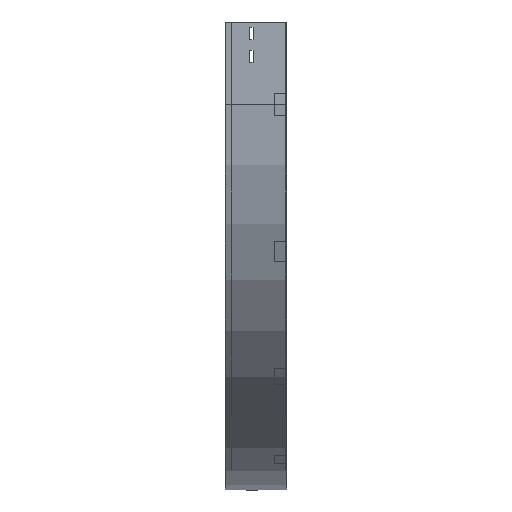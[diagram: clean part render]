
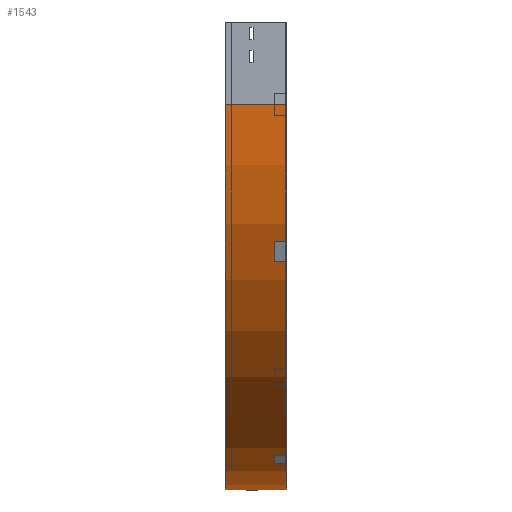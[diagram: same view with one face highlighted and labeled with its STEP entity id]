
A CAD part, left-side view. The second image highlights one B-rep face of the part: STEP entity #1543.
In plain terms, the highlighted cylindrical face has radius 700 mm (diameter 1400 mm), a partial arc.
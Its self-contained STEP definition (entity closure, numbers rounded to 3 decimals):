
#341 = DIRECTION ( 'NONE',  ( 0., -1., 0. ) ) ;
#548 = DIRECTION ( 'NONE',  ( 0., -1., 0. ) ) ;
#763 = AXIS2_PLACEMENT_3D ( 'NONE', #3480, #2565, #2600 ) ;
#907 = AXIS2_PLACEMENT_3D ( 'NONE', #2956, #341, #2664 ) ;
#915 = LINE ( 'NONE', #3234, #3781 ) ;
#990 = ORIENTED_EDGE ( 'NONE', *, *, #1255, .T. ) ;
#1222 = VERTEX_POINT ( 'NONE', #1501 ) ;
#1255 = EDGE_CURVE ( 'NONE', #2711, #3031, #915, .T. ) ;
#1473 = CARTESIAN_POINT ( 'NONE',  ( 0., 0., -150. ) ) ;
#1501 = CARTESIAN_POINT ( 'NONE',  ( 0., 112.5, -150. ) ) ;
#1543 = ADVANCED_FACE ( 'NONE', ( #2448 ), #2301, .T. ) ;
#1620 = VERTEX_POINT ( 'NONE', #3097 ) ;
#1714 = CIRCLE ( 'NONE', #2410, 700. ) ;
#1719 = VECTOR ( 'NONE', #2685, 1000. ) ;
#1843 = ORIENTED_EDGE ( 'NONE', *, *, #3409, .F. ) ;
#1867 = ORIENTED_EDGE ( 'NONE', *, *, #2635, .T. ) ;
#1879 = DIRECTION ( 'NONE',  ( -1., 0., 0. ) ) ;
#2093 = ORIENTED_EDGE ( 'NONE', *, *, #2107, .F. ) ;
#2100 = CIRCLE ( 'NONE', #907, 700. ) ;
#2107 = EDGE_CURVE ( 'NONE', #1620, #3031, #1714, .T. ) ;
#2301 = CYLINDRICAL_SURFACE ( 'NONE', #763, 700. ) ;
#2387 = CARTESIAN_POINT ( 'NONE',  ( 700., 112.5, -850. ) ) ;
#2410 = AXIS2_PLACEMENT_3D ( 'NONE', #2823, #2562, #1879 ) ;
#2448 = FACE_OUTER_BOUND ( 'NONE', #3121, .T. ) ;
#2562 = DIRECTION ( 'NONE',  ( 0., -1., 0. ) ) ;
#2565 = DIRECTION ( 'NONE',  ( 0., -1., 0. ) ) ;
#2594 = LINE ( 'NONE', #1473, #1719 ) ;
#2600 = DIRECTION ( 'NONE',  ( 0., 0., -1. ) ) ;
#2635 = EDGE_CURVE ( 'NONE', #1222, #2711, #2100, .T. ) ;
#2664 = DIRECTION ( 'NONE',  ( -1., 0., 0. ) ) ;
#2685 = DIRECTION ( 'NONE',  ( 0., -1., 0. ) ) ;
#2711 = VERTEX_POINT ( 'NONE', #2387 ) ;
#2823 = CARTESIAN_POINT ( 'NONE',  ( 700., 0., -150. ) ) ;
#2956 = CARTESIAN_POINT ( 'NONE',  ( 700., 112.5, -150. ) ) ;
#3031 = VERTEX_POINT ( 'NONE', #3713 ) ;
#3097 = CARTESIAN_POINT ( 'NONE',  ( 0., 0., -150. ) ) ;
#3121 = EDGE_LOOP ( 'NONE', ( #2093, #1843, #1867, #990 ) ) ;
#3234 = CARTESIAN_POINT ( 'NONE',  ( 700., 0., -850. ) ) ;
#3409 = EDGE_CURVE ( 'NONE', #1222, #1620, #2594, .T. ) ;
#3480 = CARTESIAN_POINT ( 'NONE',  ( 700., 0., -150. ) ) ;
#3713 = CARTESIAN_POINT ( 'NONE',  ( 700., 0., -850. ) ) ;
#3781 = VECTOR ( 'NONE', #548, 1000. ) ;
